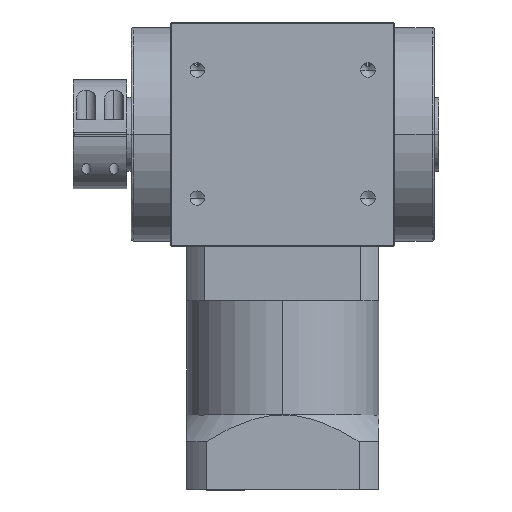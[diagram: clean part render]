
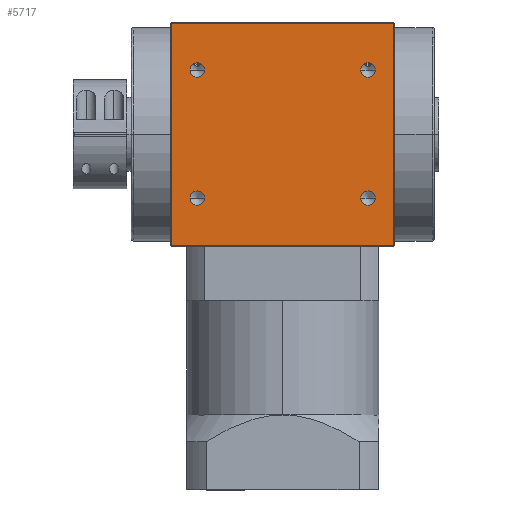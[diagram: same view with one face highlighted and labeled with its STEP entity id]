
A CAD part, top view. The second image highlights one B-rep face of the part: STEP entity #5717.
In plain terms, the highlighted planar face has unit normal (0, 0, 1).
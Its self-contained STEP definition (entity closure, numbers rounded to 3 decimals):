
#133 = CARTESIAN_POINT ( 'NONE',  ( -43.4, 30., 52.5 ) ) ;
#149 = DIRECTION ( 'NONE',  ( 0., 0., 1. ) ) ;
#286 = EDGE_LOOP ( 'NONE', ( #8356, #7085 ) ) ;
#361 = EDGE_LOOP ( 'NONE', ( #2558, #6406 ) ) ;
#397 = ORIENTED_EDGE ( 'NONE', *, *, #1807, .F. ) ;
#449 = VERTEX_POINT ( 'NONE', #7100 ) ;
#520 = DIRECTION ( 'NONE',  ( 1., 0., 0. ) ) ;
#691 = VERTEX_POINT ( 'NONE', #8631 ) ;
#730 = DIRECTION ( 'NONE',  ( -1., 0., 0. ) ) ;
#759 = DIRECTION ( 'NONE',  ( 0., 0., 1. ) ) ;
#798 = DIRECTION ( 'NONE',  ( 1., 0., 0. ) ) ;
#865 = CARTESIAN_POINT ( 'NONE',  ( 40., -30., 52.5 ) ) ;
#881 = VERTEX_POINT ( 'NONE', #9585 ) ;
#1022 = CARTESIAN_POINT ( 'NONE',  ( -40., -30., 52.5 ) ) ;
#1155 = DIRECTION ( 'NONE',  ( 0., -1., 0. ) ) ;
#1195 = DIRECTION ( 'NONE',  ( 1., 0., 0. ) ) ;
#1496 = DIRECTION ( 'NONE',  ( 0., 0., 1. ) ) ;
#1506 = EDGE_CURVE ( 'NONE', #1782, #10032, #4987, .T. ) ;
#1520 = EDGE_CURVE ( 'NONE', #449, #881, #5067, .T. ) ;
#1533 = EDGE_CURVE ( 'NONE', #5785, #6337, #5176, .T. ) ;
#1535 = EDGE_CURVE ( 'NONE', #6337, #6941, #5095, .T. ) ;
#1544 = ORIENTED_EDGE ( 'NONE', *, *, #1535, .F. ) ;
#1653 = EDGE_CURVE ( 'NONE', #6941, #691, #6311, .T. ) ;
#1732 = CARTESIAN_POINT ( 'NONE',  ( 52., -52., 52.5 ) ) ;
#1782 = VERTEX_POINT ( 'NONE', #7702 ) ;
#1807 = EDGE_CURVE ( 'NONE', #10741, #7171, #7789, .T. ) ;
#1810 = CARTESIAN_POINT ( 'NONE',  ( 52., 52., 52.5 ) ) ;
#1823 = AXIS2_PLACEMENT_3D ( 'NONE', #2682, #8404, #3552 ) ;
#1862 = EDGE_CURVE ( 'NONE', #10957, #4222, #8156, .T. ) ;
#1863 = AXIS2_PLACEMENT_3D ( 'NONE', #5960, #759, #6822 ) ;
#1926 = AXIS2_PLACEMENT_3D ( 'NONE', #9951, #5061, #10771 ) ;
#2000 = EDGE_CURVE ( 'NONE', #5785, #691, #9413, .T. ) ;
#2163 = DIRECTION ( 'NONE',  ( 0., 0., 1. ) ) ;
#2185 = FACE_BOUND ( 'NONE', #10122, .T. ) ;
#2195 = AXIS2_PLACEMENT_3D ( 'NONE', #4449, #10211, #5325 ) ;
#2288 = AXIS2_PLACEMENT_3D ( 'NONE', #10875, #5991, #798 ) ;
#2368 = ORIENTED_EDGE ( 'NONE', *, *, #5699, .F. ) ;
#2558 = ORIENTED_EDGE ( 'NONE', *, *, #1862, .F. ) ;
#2631 = CARTESIAN_POINT ( 'NONE',  ( 43.4, 30., 52.5 ) ) ;
#2682 = CARTESIAN_POINT ( 'NONE',  ( 52., -52., 52.5 ) ) ;
#2749 = ORIENTED_EDGE ( 'NONE', *, *, #1653, .F. ) ;
#2828 = CIRCLE ( 'NONE', #1863, 3.4 ) ;
#2907 = CARTESIAN_POINT ( 'NONE',  ( 36.6, 30., 52.5 ) ) ;
#2912 = CIRCLE ( 'NONE', #1926, 3.4 ) ;
#3012 = CARTESIAN_POINT ( 'NONE',  ( 52., -52., 52.5 ) ) ;
#3103 = CARTESIAN_POINT ( 'NONE',  ( 36.6, -30., 52.5 ) ) ;
#3552 = DIRECTION ( 'NONE',  ( -1., 0., 0. ) ) ;
#3573 = FACE_BOUND ( 'NONE', #361, .T. ) ;
#3629 = AXIS2_PLACEMENT_3D ( 'NONE', #7013, #149, #6981 ) ;
#3713 = FACE_OUTER_BOUND ( 'NONE', #4399, .T. ) ;
#3743 = FACE_BOUND ( 'NONE', #286, .T. ) ;
#3760 = DIRECTION ( 'NONE',  ( 1., 0., 0. ) ) ;
#3790 = DIRECTION ( 'NONE',  ( 0., 0., 1. ) ) ;
#3829 = CARTESIAN_POINT ( 'NONE',  ( 40., 30., 52.5 ) ) ;
#4222 = VERTEX_POINT ( 'NONE', #133 ) ;
#4399 = EDGE_LOOP ( 'NONE', ( #9031, #4812, #2749, #1544 ) ) ;
#4449 = CARTESIAN_POINT ( 'NONE',  ( 40., 30., 52.5 ) ) ;
#4539 = CIRCLE ( 'NONE', #2288, 3.4 ) ;
#4812 = ORIENTED_EDGE ( 'NONE', *, *, #2000, .T. ) ;
#4987 = CIRCLE ( 'NONE', #9652, 3.4 ) ;
#5061 = DIRECTION ( 'NONE',  ( 0., 0., 1. ) ) ;
#5067 = CIRCLE ( 'NONE', #9811, 3.4 ) ;
#5083 = VECTOR ( 'NONE', #730, 1000. ) ;
#5095 = LINE ( 'NONE', #10663, #5083 ) ;
#5148 = PLANE ( 'NONE',  #1823 ) ;
#5176 = LINE ( 'NONE', #3012, #5207 ) ;
#5207 = VECTOR ( 'NONE', #1155, 1000. ) ;
#5325 = DIRECTION ( 'NONE',  ( 1., 0., 0. ) ) ;
#5368 = CARTESIAN_POINT ( 'NONE',  ( 52., 52., 52.5 ) ) ;
#5381 = EDGE_CURVE ( 'NONE', #4222, #10957, #4539, .T. ) ;
#5445 = EDGE_CURVE ( 'NONE', #7171, #10741, #10873, .T. ) ;
#5670 = EDGE_CURVE ( 'NONE', #881, #449, #2912, .T. ) ;
#5699 = EDGE_CURVE ( 'NONE', #10032, #1782, #2828, .T. ) ;
#5717 = ADVANCED_FACE ( 'NONE', ( #3713, #3573, #2185, #3743, #8304 ), #5148, .F. ) ;
#5785 = VERTEX_POINT ( 'NONE', #5368 ) ;
#5960 = CARTESIAN_POINT ( 'NONE',  ( 40., -30., 52.5 ) ) ;
#5991 = DIRECTION ( 'NONE',  ( 0., 0., 1. ) ) ;
#6056 = EDGE_LOOP ( 'NONE', ( #7267, #2368 ) ) ;
#6311 = LINE ( 'NONE', #8413, #6339 ) ;
#6337 = VERTEX_POINT ( 'NONE', #1732 ) ;
#6339 = VECTOR ( 'NONE', #8535, 1000. ) ;
#6406 = ORIENTED_EDGE ( 'NONE', *, *, #5381, .F. ) ;
#6822 = DIRECTION ( 'NONE',  ( 1., 0., 0. ) ) ;
#6941 = VERTEX_POINT ( 'NONE', #10939 ) ;
#6981 = DIRECTION ( 'NONE',  ( 1., 0., 0. ) ) ;
#7013 = CARTESIAN_POINT ( 'NONE',  ( -40., 30., 52.5 ) ) ;
#7085 = ORIENTED_EDGE ( 'NONE', *, *, #5670, .F. ) ;
#7100 = CARTESIAN_POINT ( 'NONE',  ( -36.6, -30., 52.5 ) ) ;
#7171 = VERTEX_POINT ( 'NONE', #2907 ) ;
#7267 = ORIENTED_EDGE ( 'NONE', *, *, #1506, .F. ) ;
#7702 = CARTESIAN_POINT ( 'NONE',  ( 43.4, -30., 52.5 ) ) ;
#7789 = CIRCLE ( 'NONE', #9735, 3.4 ) ;
#8156 = CIRCLE ( 'NONE', #3629, 3.4 ) ;
#8304 = FACE_BOUND ( 'NONE', #6056, .T. ) ;
#8356 = ORIENTED_EDGE ( 'NONE', *, *, #1520, .F. ) ;
#8404 = DIRECTION ( 'NONE',  ( 0., 0., -1. ) ) ;
#8413 = CARTESIAN_POINT ( 'NONE',  ( -52., -52., 52.5 ) ) ;
#8471 = ORIENTED_EDGE ( 'NONE', *, *, #5445, .F. ) ;
#8535 = DIRECTION ( 'NONE',  ( 0., 1., 0. ) ) ;
#8631 = CARTESIAN_POINT ( 'NONE',  ( -52., 52., 52.5 ) ) ;
#9031 = ORIENTED_EDGE ( 'NONE', *, *, #1533, .F. ) ;
#9387 = CARTESIAN_POINT ( 'NONE',  ( -36.6, 30., 52.5 ) ) ;
#9413 = LINE ( 'NONE', #1810, #9455 ) ;
#9455 = VECTOR ( 'NONE', #9958, 1000. ) ;
#9585 = CARTESIAN_POINT ( 'NONE',  ( -43.4, -30., 52.5 ) ) ;
#9652 = AXIS2_PLACEMENT_3D ( 'NONE', #865, #2163, #520 ) ;
#9735 = AXIS2_PLACEMENT_3D ( 'NONE', #3829, #3790, #3760 ) ;
#9811 = AXIS2_PLACEMENT_3D ( 'NONE', #1022, #1496, #1195 ) ;
#9951 = CARTESIAN_POINT ( 'NONE',  ( -40., -30., 52.5 ) ) ;
#9958 = DIRECTION ( 'NONE',  ( -1., 0., 0. ) ) ;
#10032 = VERTEX_POINT ( 'NONE', #3103 ) ;
#10122 = EDGE_LOOP ( 'NONE', ( #397, #8471 ) ) ;
#10211 = DIRECTION ( 'NONE',  ( 0., 0., 1. ) ) ;
#10663 = CARTESIAN_POINT ( 'NONE',  ( 52., -52., 52.5 ) ) ;
#10741 = VERTEX_POINT ( 'NONE', #2631 ) ;
#10771 = DIRECTION ( 'NONE',  ( 1., 0., 0. ) ) ;
#10873 = CIRCLE ( 'NONE', #2195, 3.4 ) ;
#10875 = CARTESIAN_POINT ( 'NONE',  ( -40., 30., 52.5 ) ) ;
#10939 = CARTESIAN_POINT ( 'NONE',  ( -52., -52., 52.5 ) ) ;
#10957 = VERTEX_POINT ( 'NONE', #9387 ) ;
